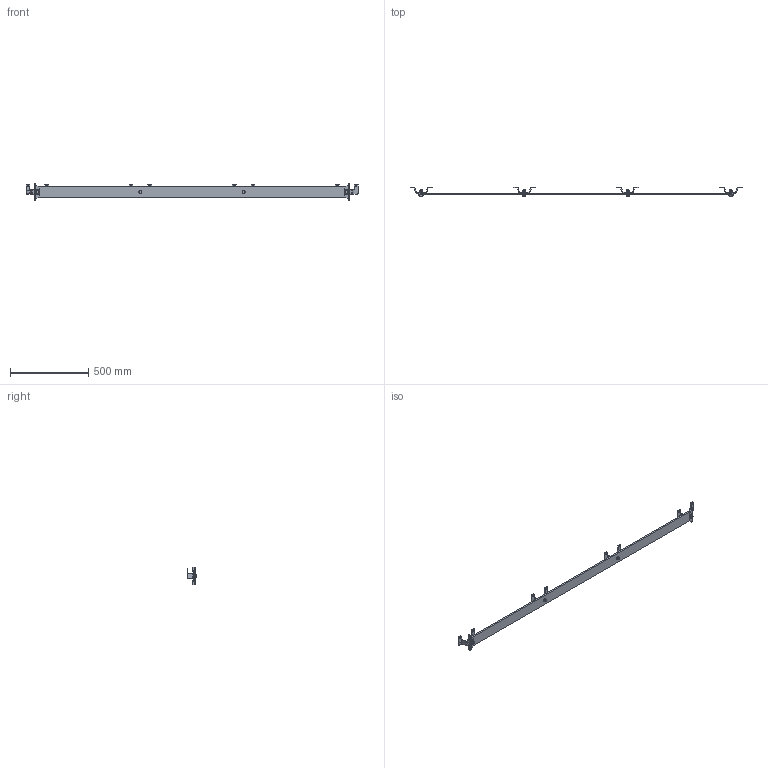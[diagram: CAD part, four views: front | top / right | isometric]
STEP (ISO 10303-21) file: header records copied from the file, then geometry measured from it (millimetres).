
FILE_DESCRIPTION(/* description */ ('Sortiment 5'),/* implementation_level */ '2;1');
FILE_NAME(/* name */ 'D:\Public\STP\010330160-TP.stp',/* time_stamp */ '2020-05-13T16:47:57+02:00',/* author */ ('M.Barta'),/* organization */ (''),/* preprocessor_version */ 'ST-DEVELOPER v17.2',/* originating_system */ 'Autodesk Inventor 2019',/* authorisation */ '');
FILE_SCHEMA (('AUTOMOTIVE_DESIGN { 1 0 10303 214 3 1 1 }'));
Length unit declared in the file: millimetre
Products named in the file (8): 010330160; 337000395; 337000390; 010330102; DIN 125 - A 10,5; DIN EN ISO 4032 - M10; DIN_EN_ISO_4017-M10x40_en; DIN 127 - A 10
Assembly tree (27 placements, depth 2):
  010330160
    337000395
    337000390  x2
    010330102  x4
    DIN 125 - A 10,5  x8
    DIN EN ISO 4032 - M10  x4
    DIN_EN_ISO_4017-M10x40_en  x4
    DIN 127 - A 10  x4
Bounding box: 2124 x 62.4 x 110 mm (x, y, z)
Volume: 1866971.6 mm3; surface area: 434631.6 mm2
Topology: 27 solids, 27 shells, 486 faces, 1184 edges, 764 vertices
Faces by surface type: plane 278, cylinder 156, cone 48, bspline 4
Full cylindrical faces by diameter (mm): 8.376 x4, 9.188 x4, 10 x4, 10.5 x12, 11 x8, 15.4 x4, 20 x8
Entity records: 4801 total; most frequent: CARTESIAN_POINT 902, DIRECTION 788, ORIENTED_EDGE 708, EDGE_CURVE 354, AXIS2_PLACEMENT_3D 292, VERTEX_POINT 230, LINE 204, VECTOR 204
